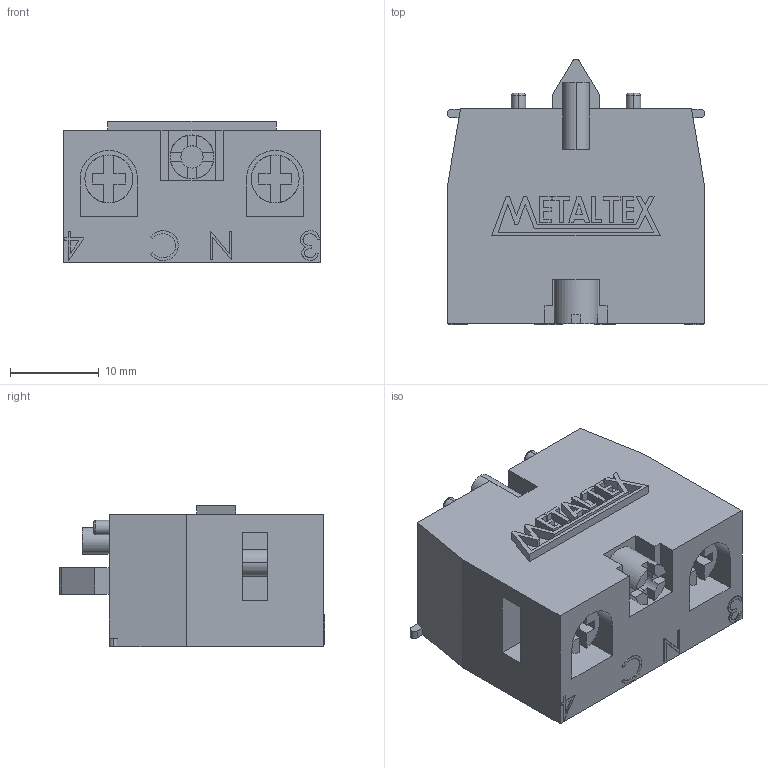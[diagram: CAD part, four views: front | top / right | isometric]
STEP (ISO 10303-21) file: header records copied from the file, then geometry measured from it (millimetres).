
FILE_DESCRIPTION (( 'STEP AP203' ), '1' );
FILE_NAME ('M20-1A.STEP', '2018-01-17T13:42:52', ( '' ), ( '' ), 'SwSTEP 2.0', 'SolidWorks 2012', '' );
FILE_SCHEMA (( 'CONFIG_CONTROL_DESIGN' ));
Length unit declared in the file: millimetre
Products named in the file (3): METALTEX 18,98; M20-1A
Assembly tree (2 placements, depth 2):
  M20-1A
    M20-1A
    METALTEX 18,98
Bounding box: 29 x 29.9 x 15.9 mm (x, y, z)
Volume: 9619.2 mm3; surface area: 4294.3 mm2
Topology: 8 solids, 8 shells, 274 faces, 725 edges, 482 vertices
Faces by surface type: plane 222, cylinder 25, bspline 23, torus 4
Entity records: 9920 total; most frequent: CARTESIAN_POINT 2877, ORIENTED_EDGE 1450, DIRECTION 1275, EDGE_CURVE 725, LINE 595, VECTOR 595, VERTEX_POINT 482, AXIS2_PLACEMENT_3D 340
